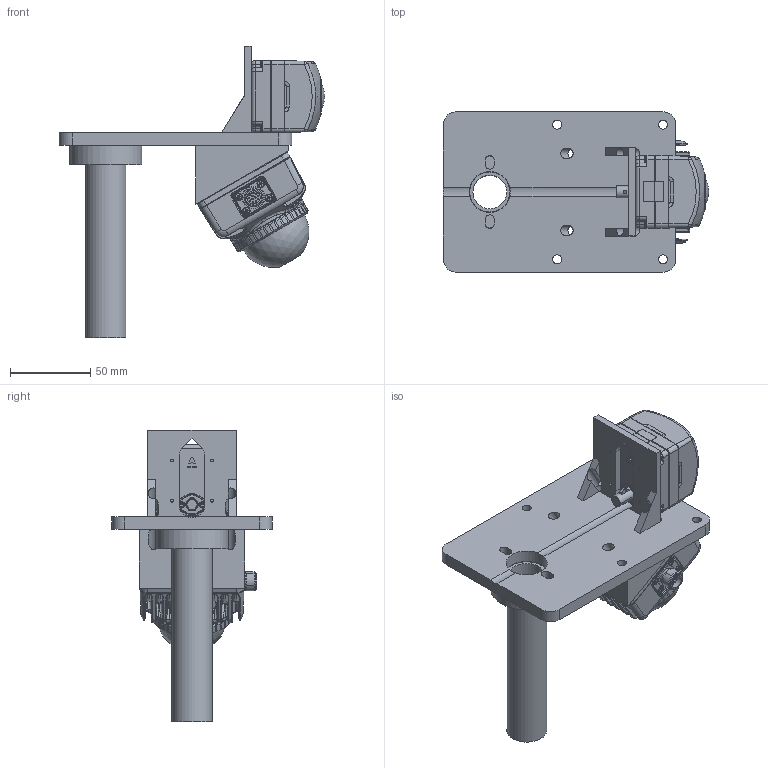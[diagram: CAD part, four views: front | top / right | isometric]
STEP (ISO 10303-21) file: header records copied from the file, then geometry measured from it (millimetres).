
FILE_DESCRIPTION(('FreeCAD Model'),'2;1');
FILE_NAME('Open CASCADE Shape Model','2026-11-20T13:18:16',('FreeCAD'),( 'FreeCAD'),'Open CASCADE STEP processor 7.8','FreeCAD','Unknown');
FILE_SCHEMA(('AUTOMOTIVE_DESIGN { 1 0 10303 214 1 1 1 1 }'));
Length unit declared in the file: millimetre
Products named in the file (1): Open CASCADE STEP translator 7.8 2
Bounding box: 165.5 x 100 x 182 mm (x, y, z)
Volume: 345416.7 mm3; surface area: 134436.5 mm2
Topology: 11 solids, 44 shells, 2387 faces, 6384 edges, 4099 vertices
Faces by surface type: plane 811, cylinder 758, bspline 334, cone 267, torus 173, extrusion 24, sphere 20
Full cylindrical faces by diameter (mm): 1.8 x4, 3.6 x4, 5.7 x4, 6.8 x4, 21 x1, 25 x2, 25.6 x1, 45 x1
Entity records: 112410 total; most frequent: CARTESIAN_POINT 55362, ORIENTED_EDGE 12569, DIRECTION 11012, EDGE_CURVE 6325, AXIS2_PLACEMENT_3D 4118, VERTEX_POINT 4099, VECTOR 2776, LINE 2752
